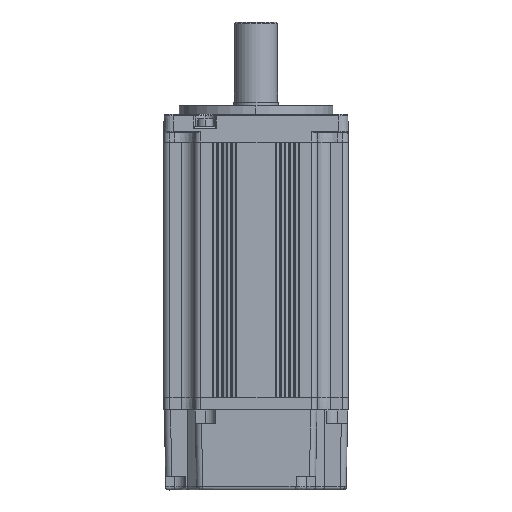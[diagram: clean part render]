
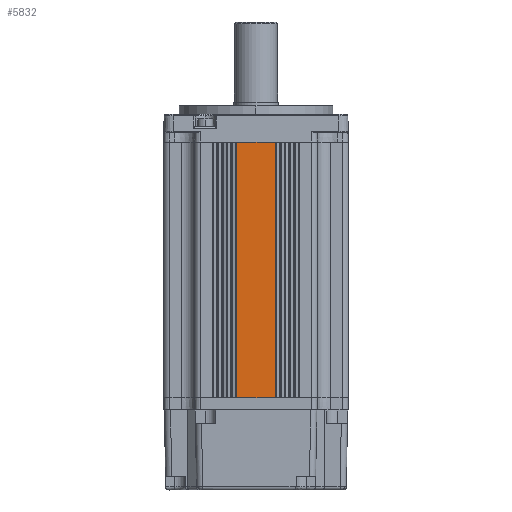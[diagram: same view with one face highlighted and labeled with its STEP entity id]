
A CAD part, front view. The second image highlights one B-rep face of the part: STEP entity #5832.
In plain terms, the highlighted planar face has unit normal (0, -1, 0).
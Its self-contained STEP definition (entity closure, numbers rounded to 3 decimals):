
#1339 = ORIENTED_EDGE ( 'NONE', *, *, #14728, .F. ) ;
#1340 = ORIENTED_EDGE ( 'NONE', *, *, #5612, .F. ) ;
#1341 = ORIENTED_EDGE ( 'NONE', *, *, #14724, .F. ) ;
#1342 = ORIENTED_EDGE ( 'NONE', *, *, #5613, .T. ) ;
#3773 = VERTEX_POINT ( 'NONE', #16263 ) ;
#3774 = VERTEX_POINT ( 'NONE', #16264 ) ;
#3776 = VERTEX_POINT ( 'NONE', #16266 ) ;
#3779 = VERTEX_POINT ( 'NONE', #16269 ) ;
#5612 = EDGE_CURVE ( 'NONE', #3779, #3773, #16458, .T. ) ;
#5613 = EDGE_CURVE ( 'NONE', #3776, #3774, #16469, .T. ) ;
#5832 = ADVANCED_FACE ( 'NONE', ( #17382 ), #17383, .F. ) ;
#6974 = EDGE_LOOP ( 'NONE', ( #1339, #1340, #1341, #1342 ) ) ;
#11006 = VECTOR ( 'NONE', #11888, 1000. ) ;
#11013 = VECTOR ( 'NONE', #11913, 1000. ) ;
#11871 = LINE ( 'NONE', #11873, #11006 ) ;
#11873 = CARTESIAN_POINT ( 'NONE',  ( -6.187, -28.135, -18.065 ) ) ;
#11888 = DIRECTION ( 'NONE',  ( 0., 0., 1. ) ) ;
#11897 = LINE ( 'NONE', #11898, #11013 ) ;
#11898 = CARTESIAN_POINT ( 'NONE',  ( 6.313, -28.135, -18.065 ) ) ;
#11913 = DIRECTION ( 'NONE',  ( 0., 0., -1. ) ) ;
#14724 = EDGE_CURVE ( 'NONE', #3776, #3779, #11871, .T. ) ;
#14728 = EDGE_CURVE ( 'NONE', #3773, #3774, #11897, .T. ) ;
#15677 = VECTOR ( 'NONE', #16468, 1000. ) ;
#15686 = VECTOR ( 'NONE', #16472, 1000. ) ;
#15954 = AXIS2_PLACEMENT_3D ( 'NONE', #17378, #17385, #17386 ) ;
#16263 = CARTESIAN_POINT ( 'NONE',  ( 6.313, -28.135, 64.935 ) ) ;
#16264 = CARTESIAN_POINT ( 'NONE',  ( 6.313, -28.135, -18.065 ) ) ;
#16266 = CARTESIAN_POINT ( 'NONE',  ( -6.187, -28.135, -18.065 ) ) ;
#16269 = CARTESIAN_POINT ( 'NONE',  ( -6.187, -28.135, 64.935 ) ) ;
#16458 = LINE ( 'NONE', #16467, #15677 ) ;
#16467 = CARTESIAN_POINT ( 'NONE',  ( -27.937, -28.135, 64.935 ) ) ;
#16468 = DIRECTION ( 'NONE',  ( 1., 0., 0. ) ) ;
#16469 = LINE ( 'NONE', #16471, #15686 ) ;
#16471 = CARTESIAN_POINT ( 'NONE',  ( 18.063, -28.135, -18.065 ) ) ;
#16472 = DIRECTION ( 'NONE',  ( 1., 0., 0. ) ) ;
#17378 = CARTESIAN_POINT ( 'NONE',  ( 18.063, -28.135, -18.065 ) ) ;
#17382 = FACE_OUTER_BOUND ( 'NONE', #6974, .T. ) ;
#17383 = PLANE ( 'NONE',  #15954 ) ;
#17385 = DIRECTION ( 'NONE',  ( 0., 1., 0. ) ) ;
#17386 = DIRECTION ( 'NONE',  ( 0., 0., -1. ) ) ;
